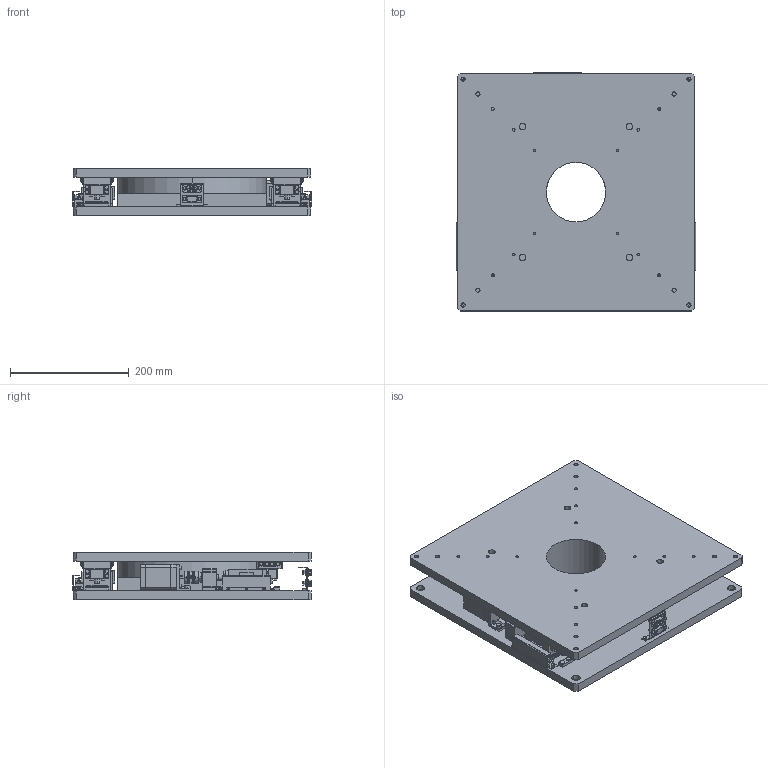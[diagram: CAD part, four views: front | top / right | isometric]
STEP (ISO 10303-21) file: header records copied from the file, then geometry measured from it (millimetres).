
FILE_DESCRIPTION (( 'STEP AP214' ), '1' );
FILE_NAME ('NAF3C-40K00P_3D図.STEP', '2021-01-09T05:23:23', ( 'hst101l' ), ( 'Microsoft' ), 'SwSTEP 2.0', 'SolidWorks 2016', '' );
FILE_SCHEMA (( 'AUTOMOTIVE_DESIGN' ));
Length unit declared in the file: millimetre
Products named in the file (1): NAF3C-40K00P_3D図
Bounding box: 403.19 x 402.62 x 80 mm (x, y, z)
Volume: 7742771.4 mm3; surface area: 893412.3 mm2
Topology: 1 solids, 1 shells, 4078 faces, 10667 edges, 6852 vertices
Faces by surface type: plane 2416, cylinder 1098, cone 386, bspline 160, sphere 18
Entity records: 128915 total; most frequent: CARTESIAN_POINT 26702, DIRECTION 21587, ORIENTED_EDGE 21334, EDGE_CURVE 10667, AXIS2_PLACEMENT_3D 7561, VERTEX_POINT 6852, VECTOR 6465, LINE 6465
